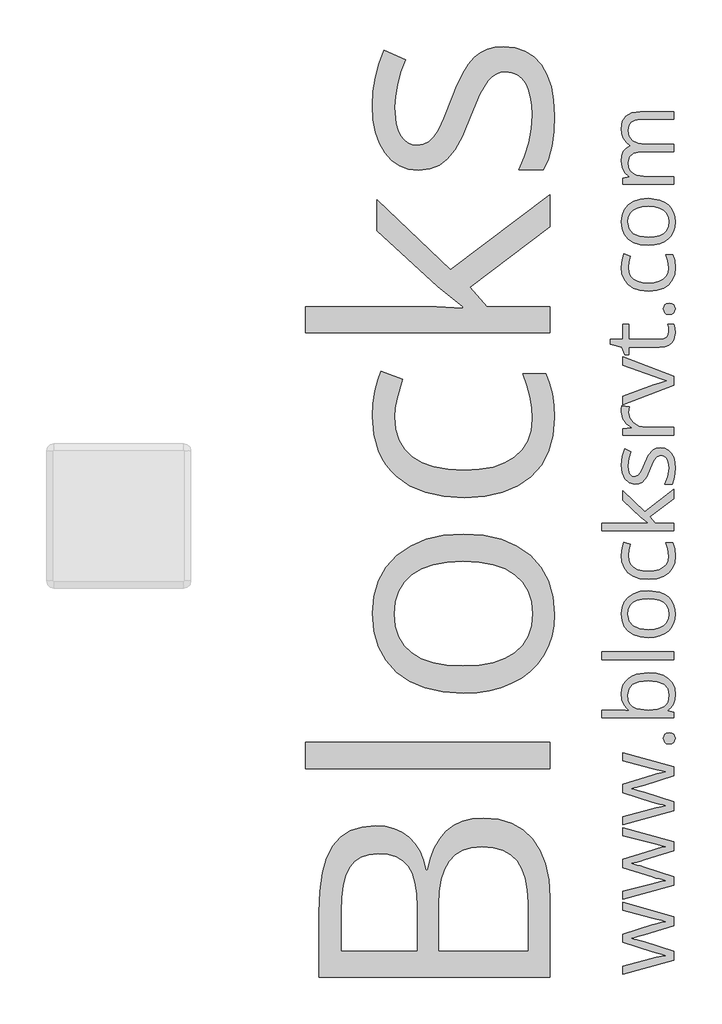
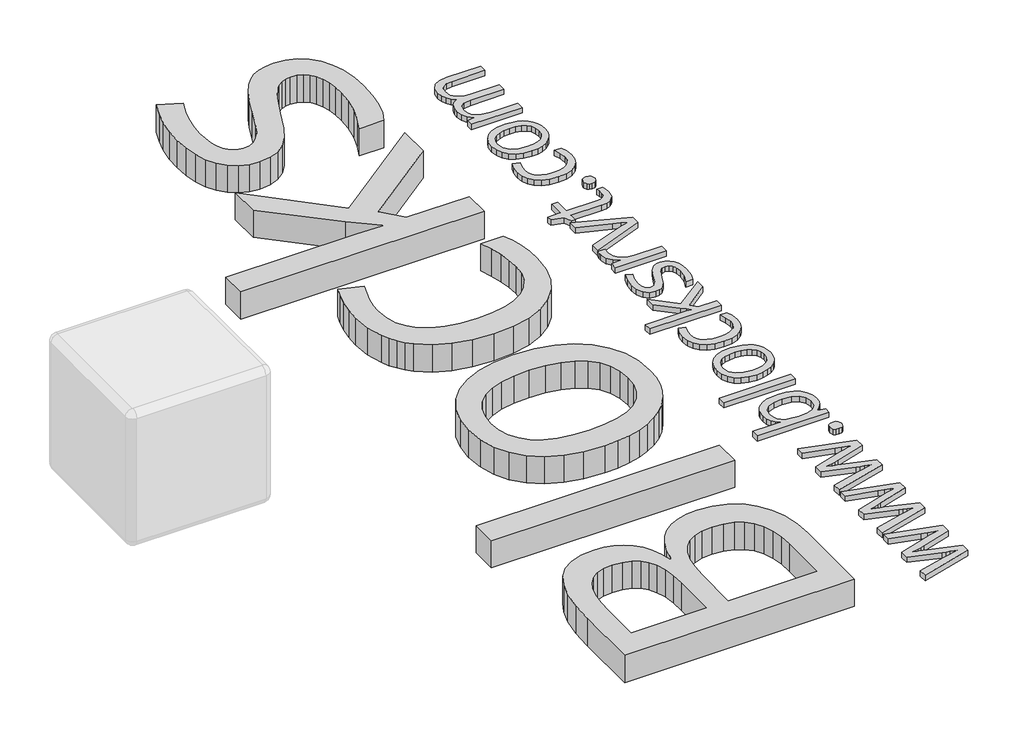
# One storey, part 6 of 6: 2 proxies.
"""IFC4 building model written with IfcOpenShell, lengths in millimetres."""

from ifc_helpers import new_model, si_unit, origin, origin_with_axes, place, context, project, spatial, polyline, outline, extrude, element, save

model = new_model("IFC4")

# Units and contexts
model_context = context("Model", 3, world=origin())
ifc_project = project(units=[si_unit("LENGTHUNIT", "METRE", prefix="MILLI")], contexts=[model_context])

# Site, building, storey
site = spatial("IfcSite", under=ifc_project)
building = spatial("IfcBuilding", under=site)
storey = spatial("IfcBuildingStorey", under=building, Name="PORTOBELLO - SHOWROOM", Elevation=0.0)

# Proxies
placement = place(None, origin())
element("IfcBuildingElementProxy", 1, Name="25mm OpenSans", ObjectType="25mm OpenSans", at=placement, inside=storey, context=model_context, shape_type="SweptSolid", body=[
    extrude(outline(polyline([(-15400.2390756, 12153.4657869), (-15503.5294814, 12121.9089939), (-15516.6094348, 12117.9737643), (-15528.9023423, 12114.6007105), (-15539.8835066, 12111.8273106), (-15548.7284035, 12109.8409566), (-15539.8835066, 12106.9176433), (-15528.7899072, 12104.2566785), (-15516.234651, 12100.921103), (-15503.0797409, 12096.8734383), (-15400.2390756, 12063.892467), (-15400.2390756, 12033.6848954), (-15577.736667, 11984.8880492), (-15577.736667, 12012.6970046), (-15479.7681906, 12038.1823006), (-15460.5792618, 12043.1294463), (-15442.777033, 12047.177111), (-15428.2729012, 12049.6506839), (-15437.9798008, 12053.1736513), (-15450.047838, 12055.9095727), (-15462.8654428, 12059.2076699), (-15474.8960017, 12062.7681157), (-15577.736667, 12095.44926), (-15577.736667, 12124.3825667), (-15475.0459152, 12155.864403), (-15458.8552565, 12160.6241569), (-15442.5896411, 12164.9341702), (-15428.5727282, 12167.6326133), (-15442.1773789, 12171.3804509), (-15460.0170862, 12175.5030724), (-15479.7681906, 12180.4502181), (-15577.736667, 12206.3102979), (-15577.736667, 12233.594556), (-15400.2390756, 12184.6477963), (-15400.2390756, 12153.4657869)])), origin_with_axes(), (0.0, 0.0, 1.0), 20.0),
    extrude(outline(polyline([(-15400.2390756, 12412.5163258), (-15503.5294814, 12380.9595327), (-15516.6094348, 12377.0243032), (-15528.9023423, 12373.6512493), (-15539.8835066, 12370.8778494), (-15548.7284035, 12368.8914954), (-15539.8835066, 12365.9681821), (-15528.7899072, 12363.3072173), (-15516.234651, 12359.9716418), (-15503.0797409, 12355.9239772), (-15400.2390756, 12322.9430058), (-15400.2390756, 12292.7354343), (-15577.736667, 12243.938588), (-15577.736667, 12271.7475434), (-15479.7681906, 12297.2328395), (-15460.5792618, 12302.1799852), (-15442.777033, 12306.2276498), (-15428.2729012, 12308.7012227), (-15437.9798008, 12312.2241901), (-15450.047838, 12314.9601116), (-15462.8654428, 12318.2582087), (-15474.8960017, 12321.8186545), (-15577.736667, 12354.4997988), (-15577.736667, 12383.4331056), (-15475.0459152, 12414.9149419), (-15458.8552565, 12419.6746957), (-15442.5896411, 12423.984709), (-15428.5727282, 12426.6831521), (-15442.1773789, 12430.4309898), (-15460.0170862, 12434.5536112), (-15479.7681906, 12439.5007569), (-15577.736667, 12465.3608367), (-15577.736667, 12492.6450949), (-15400.2390756, 12443.6983351), (-15400.2390756, 12412.5163258)])), origin_with_axes(), (0.0, 0.0, 1.0), 20.0),
    extrude(outline(polyline([(-15400.2390756, 12671.5668646), (-15503.5294814, 12640.0100715), (-15516.6094348, 12636.074842), (-15528.9023423, 12632.7017881), (-15539.8835066, 12629.9283882), (-15548.7284035, 12627.9420343), (-15539.8835066, 12625.0187209), (-15528.7899072, 12622.3577562), (-15516.234651, 12619.0221806), (-15503.0797409, 12614.974516), (-15400.2390756, 12581.9935446), (-15400.2390756, 12551.7859731), (-15577.736667, 12502.9891268), (-15577.736667, 12530.7980822), (-15479.7681906, 12556.2833783), (-15460.5792618, 12561.230524), (-15442.777033, 12565.2781887), (-15428.2729012, 12567.7517615), (-15437.9798008, 12571.2747289), (-15450.047838, 12574.0106504), (-15462.8654428, 12577.3087475), (-15474.8960017, 12580.8691933), (-15577.736667, 12613.5503377), (-15577.736667, 12642.4836444), (-15475.0459152, 12673.9654807), (-15458.8552565, 12678.7252345), (-15442.5896411, 12683.0352478), (-15428.5727282, 12685.7336909), (-15442.1773789, 12689.4815286), (-15460.0170862, 12693.60415), (-15479.7681906, 12698.5512957), (-15577.736667, 12724.4113755), (-15577.736667, 12751.6956337), (-15400.2390756, 12702.7488739), (-15400.2390756, 12671.5668646)])), origin_with_axes(), (0.0, 0.0, 1.0), 20.0),
    extrude(outline(polyline([(-15416.7295612, 12782.3529457), (-15426.408352, 12783.7302761), (-15432.8077848, 12787.8622671), (-15437.5675386, 12801.3170043), (-15432.8077848, 12815.221482), (-15426.408352, 12819.4659081), (-15416.7295612, 12820.8807168), (-15407.1350968, 12819.4659081), (-15400.5389026, 12815.221482), (-15395.4418434, 12801.3170043), (-15400.5389026, 12787.8622671), (-15407.1350968, 12783.7302761), (-15416.7295612, 12782.3529457)])), origin_with_axes(), (0.0, 0.0, 1.0), 20.0),
    extrude(outline(polyline([(-15649.69515, 12899.5853076), (-15589.4299205, 12899.5853076), (-15569.3040322, 12899.023132), (-15554.1252897, 12898.1611293), (-15565.1251933, 12908.4770525), (-15574.2886563, 12920.6106769), (-15580.4725885, 12936.2672687), (-15582.5338992, 12955.7279157), (-15581.0652153, 12971.5250514), (-15576.6591636, 12985.6356602), (-15569.3157442, 12998.059742), (-15559.0349571, 13008.7972969), (-15545.8589653, 13017.4548019), (-15529.8299321, 13023.638734), (-15489.2127415, 13028.5858798), (-15461.1039591, 13026.318438), (-15437.7924089, 13019.5161126), (-15419.4280044, 13008.6005355), (-15406.1606591, 12993.9933382), (-15398.1215473, 12976.0318262), (-15395.4418434, 12955.0533049), (-15397.4000885, 12935.9299633), (-15403.2748241, 12920.5357201), (-15411.979177, 12908.5707484), (-15422.4262745, 12899.7352211), (-15422.4262745, 12897.636432), (-15400.2390756, 12892.1645891), (-15400.2390756, 12872.75079), (-15649.69515, 12872.75079), (-15649.69515, 12899.5853076)]), holes=[polyline([(-15560.12183, 12951.3054673), (-15558.1916936, 12934.0841532), (-15552.4012844, 12920.7980688), (-15542.7318633, 12911.07243), (-15529.1646909, 12904.5324533), (-15489.8873523, 12899.5853076), (-15458.0963194, 12902.3774467), (-15435.8810117, 12910.7538638), (-15427.9285686, 12917.4765476), (-15422.2482522, 12926.4760428), (-15417.703999, 12951.3054673), (-15422.3513177, 12972.9492297), (-15436.2932738, 12988.4090601), (-15458.8739957, 12997.6849583), (-15489.4376118, 13000.7769243), (-15520.2448373, 12997.7318062), (-15542.3570795, 12988.596452), (-15555.6806424, 12973.1834696), (-15560.12183, 12951.3054673)])]), origin_with_axes(), (0.0, 0.0, 1.0), 20.0),
    extrude(outline(polyline([(-15400.2390756, 13101.2189735), (-15400.2390756, 13074.2345424), (-15649.69515, 13074.2345424), (-15649.69515, 13101.2189735), (-15400.2390756, 13101.2189735)])), origin_with_axes(), (0.0, 0.0, 1.0), 20.0),
    extrude(outline(polyline([(-15489.2876983, 13313.3465849), (-15449.6355759, 13307.68735), (-15433.5292435, 13300.7725896), (-15420.1400935, 13291.3467779), (-15409.5337129, 13279.5598284), (-15401.775689, 13265.5616548), (-15397.0253048, 13249.4740616), (-15395.4418434, 13231.4188537), (-15397.0253048, 13214.3943012), (-15401.775689, 13198.8501445), (-15409.5337129, 13185.0581019), (-15420.1400935, 13173.2898917), (-15433.5292435, 13163.7516448), (-15449.6355759, 13156.6494925), (-15468.2810682, 13152.2364136), (-15489.2876983, 13150.7653874), (-15516.7593483, 13153.2295906), (-15539.8085499, 13160.6222004), (-15558.1729544, 13172.5965417), (-15571.5902132, 13188.8059396), (-15579.7979777, 13208.903719), (-15582.5338992, 13232.543205), (-15579.7792385, 13255.2457316), (-15571.5152565, 13274.9312489), (-15558.0417801, 13291.0937988), (-15539.6586364, 13303.2274232), (-15516.6469132, 13310.8167945), (-15489.2876983, 13313.3465849)]), holes=[polyline([(-15489.362655, 13178.5743428), (-15468.9182006, 13179.9891515), (-15451.3595812, 13184.2335776), (-15437.0803197, 13191.4200563), (-15426.4739392, 13201.6610227), (-15419.8964841, 13215.1344991), (-15417.703999, 13232.0185078), (-15419.8964841, 13248.81819), (-15426.4739392, 13262.3385144), (-15437.0803197, 13272.6638071), (-15451.3595812, 13279.8783946), (-15468.9182006, 13284.1228208), (-15489.362655, 13285.5376295), (-15509.5728696, 13284.1228208), (-15526.87851, 13279.8783946), (-15540.9235316, 13272.6825463), (-15551.3518899, 13262.4134711), (-15557.8169098, 13248.8744076), (-15559.9719165, 13231.8685942), (-15555.2871194, 13207.9667596), (-15541.2327282, 13191.4294259), (-15518.8956158, 13181.7881136), (-15489.362655, 13178.5743428)])]), origin_with_axes(), (0.0, 0.0, 1.0), 20.0),
    extrude(outline(polyline([(-15395.4418434, 13433.0525197), (-15397.9528946, 13410.5561241), (-15405.4860483, 13390.889346), (-15418.1631091, 13374.6518394), (-15436.1058819, 13362.4432582), (-15459.3705842, 13354.7976694), (-15488.0134335, 13352.2491398), (-15517.7900037, 13354.9382133), (-15541.607512, 13363.0054339), (-15559.7470462, 13375.7949299), (-15572.4896943, 13392.6508297), (-15580.0228479, 13412.8329355), (-15582.5338992, 13435.6010493), (-15579.8729344, 13461.2362588), (-15573.164305, 13481.5495389), (-15550.7522358, 13473.4542096), (-15556.5613842, 13454.7899781), (-15559.1473922, 13435.0013952), (-15557.1141903, 13418.1173866), (-15551.0145845, 13404.3440832), (-15540.9797492, 13393.6721155), (-15527.1408586, 13386.0921138), (-15509.5635, 13381.5665998), (-15488.3132605, 13380.0580952), (-15467.8875453, 13381.5291215), (-15450.6849704, 13385.9422003), (-15436.9397758, 13393.2879621), (-15426.8862013, 13403.5570373), (-15420.7303779, 13416.7587954), (-15418.6784368, 13432.9026061), (-15421.676707, 13458.2379887), (-15428.7226417, 13478.7761391), (-15404.8114375, 13478.7761391), (-15397.8779378, 13458.9875562), (-15395.4418434, 13433.0525197)])), origin_with_axes(), (0.0, 0.0, 1.0), 20.0),
    extrude(outline(polyline([(-15649.69515, 13547.0617412), (-15520.8444913, 13547.0617412), (-15505.3284434, 13546.5745223), (-15489.1377848, 13545.7874764), (-15501.6180842, 13556.8435974), (-15514.9229078, 13567.8997185), (-15577.736667, 13626.7407697), (-15577.736667, 13658.2975628), (-15501.9553896, 13587.0136906), (-15400.2390756, 13663.4695788), (-15400.2390756, 13631.0882614), (-15484.2655958, 13568.5743293), (-15464.5519697, 13547.0617412), (-15400.2390756, 13547.0617412), (-15400.2390756, 13520.377137), (-15649.69515, 13520.377137), (-15649.69515, 13547.0617412)])), origin_with_axes(), (0.0, 0.0, 1.0), 20.0),
    extrude(outline(polyline([(-15448.1364408, 13807.6863718), (-15432.2081308, 13805.5688435), (-15419.0532206, 13799.2162587), (-15408.746667, 13788.9190747), (-15401.3634269, 13774.9677491), (-15396.9222392, 13757.6808479), (-15395.4418434, 13737.3769374), (-15398.3651567, 13705.2204903), (-15406.6103996, 13681.4591995), (-15431.3461281, 13681.4591995), (-15421.6017502, 13707.3567577), (-15417.2542585, 13738.0515481), (-15419.1750253, 13757.840131), (-15424.9373257, 13771.3323465), (-15433.9977232, 13779.0903705), (-15445.8127815, 13781.6763785), (-15458.8927349, 13777.553757), (-15469.9113776, 13763.7242361), (-15481.7170662, 13736.9271968), (-15494.834498, 13707.5441496), (-15510.7253297, 13688.4676559), (-15521.5003629, 13683.4361839), (-15535.0862744, 13681.7590265), (-15555.3527066, 13686.3126493), (-15570.27847, 13699.9735176), (-15579.4700419, 13721.017626), (-15582.5338992, 13747.7209693), (-15579.3857155, 13777.7411489), (-15570.9156024, 13803.7886206), (-15549.4030143, 13794.7938103), (-15557.3484301, 13771.3323465), (-15560.5715705, 13745.9220072), (-15558.9974787, 13729.4971087), (-15554.2752032, 13717.4009627), (-15546.8170063, 13709.9521353), (-15537.03515, 13707.4691929), (-15523.0931939, 13712.0790332), (-15512.7866404, 13726.8829919), (-15501.505649, 13753.7175095), (-15488.6130875, 13782.4634244), (-15472.4599072, 13801.1276559), (-15461.638026, 13806.0466928), (-15448.1364408, 13807.6863718)])), origin_with_axes(), (0.0, 0.0, 1.0), 20.0),
    extrude(outline(polyline([(-15582.5338992, 13931.8897117), (-15581.9717235, 13943.058268), (-15580.4351101, 13953.4022999), (-15555.549468, 13950.029246), (-15557.3484301, 13940.2848681), (-15558.0230409, 13930.3156199), (-15553.6755492, 13910.1522533), (-15541.2327282, 13893.5868109), (-15521.7814508, 13882.4182547), (-15496.4835466, 13878.37059), (-15400.2390756, 13878.37059), (-15400.2390756, 13851.3861589), (-15577.736667, 13851.3861589), (-15577.736667, 13873.7232713), (-15546.7045712, 13876.6465847), (-15564.6941919, 13891.0008029), (-15577.6991886, 13909.027902), (-15582.5338992, 13931.8897117)])), origin_with_axes(), (0.0, 0.0, 1.0), 20.0),
    extrude(outline(polyline([(-15400.2390756, 14024.6861721), (-15577.736667, 13957.4499646), (-15577.736667, 13986.2333578), (-15470.3236397, 14025.1359126), (-15446.0376517, 14033.4186339), (-15424.6749771, 14039.2277822), (-15446.1500868, 14046.8358927), (-15470.3236397, 14055.0436571), (-15577.736667, 14094.0211688), (-15577.736667, 14122.804562), (-15400.2390756, 14055.4184409), (-15400.2390756, 14024.6861721)])), origin_with_axes(), (0.0, 0.0, 1.0), 20.0),
    extrude(outline(polyline([(-15417.404172, 14210.8787469), (-15418.5285233, 14224.4459192), (-15421.3019232, 14235.7643889), (-15400.4639458, 14235.7643889), (-15396.9035, 14222.7219139), (-15395.4418434, 14206.4562985), (-15400.4264674, 14180.9710024), (-15407.153836, 14170.6457097), (-15417.3666936, 14162.6065979), (-15431.5991071, 14157.4345819), (-15450.3851434, 14155.7105766), (-15556.7487761, 14155.7105766), (-15556.7487761, 14130.5251075), (-15569.7912511, 14130.5251075), (-15580.3601533, 14155.9354468), (-15620.9117568, 14166.5793058), (-15620.9117568, 14182.6950077), (-15577.736667, 14182.6950077), (-15577.736667, 14234.6400376), (-15556.7487761, 14234.6400376), (-15556.7487761, 14182.6950077), (-15450.9847974, 14182.6950077), (-15436.2464258, 14184.6157745), (-15425.76185, 14190.3780749), (-15419.4935915, 14199.3447765), (-15417.404172, 14210.8787469)])), origin_with_axes(), (0.0, 0.0, 1.0), 20.0),
    extrude(outline(polyline([(-15416.7295612, 14269.4949278), (-15426.408352, 14270.8722582), (-15432.8077848, 14275.0042492), (-15437.5675386, 14288.4589864), (-15432.8077848, 14302.3634641), (-15426.408352, 14306.6078902), (-15416.7295612, 14308.022699), (-15407.1350968, 14306.6078902), (-15400.5389026, 14302.3634641), (-15395.4418434, 14288.4589864), (-15400.5389026, 14275.0042492), (-15407.1350968, 14270.8722582), (-15416.7295612, 14269.4949278)])), origin_with_axes(), (0.0, 0.0, 1.0), 20.0),
    extrude(outline(polyline([(-15395.4418434, 14430.8768173), (-15397.9528946, 14408.3804218), (-15405.4860483, 14388.7136437), (-15418.1631091, 14372.4761371), (-15436.1058819, 14360.2675559), (-15459.3705842, 14352.6219671), (-15488.0134335, 14350.0734375), (-15517.7900037, 14352.762511), (-15541.607512, 14360.8297315), (-15559.7470462, 14373.6192275), (-15572.4896943, 14390.4751274), (-15580.0228479, 14410.6572332), (-15582.5338992, 14433.4253469), (-15579.8729344, 14459.0605565), (-15573.164305, 14479.3738366), (-15550.7522358, 14471.2785073), (-15556.5613842, 14452.6142757), (-15559.1473922, 14432.8256929), (-15557.1141903, 14415.9416843), (-15551.0145845, 14402.1683809), (-15540.9797492, 14391.4964132), (-15527.1408586, 14383.9164115), (-15509.5635, 14379.3908975), (-15488.3132605, 14377.8823929), (-15467.8875453, 14379.3534192), (-15450.6849704, 14383.766498), (-15436.9397758, 14391.1122598), (-15426.8862013, 14401.381335), (-15420.7303779, 14414.5830931), (-15418.6784368, 14430.7269038), (-15421.676707, 14456.0622864), (-15428.7226417, 14476.6004367), (-15404.8114375, 14476.6004367), (-15397.8779378, 14456.8118539), (-15395.4418434, 14430.8768173)])), origin_with_axes(), (0.0, 0.0, 1.0), 20.0),
    extrude(outline(polyline([(-15489.2876983, 14670.9632976), (-15449.6355759, 14665.3040628), (-15433.5292435, 14658.3893023), (-15420.1400935, 14648.9634906), (-15409.5337129, 14637.1765411), (-15401.775689, 14623.1783675), (-15397.0253048, 14607.0907744), (-15395.4418434, 14589.0355664), (-15397.0253048, 14572.0110139), (-15401.775689, 14556.4668572), (-15409.5337129, 14542.6748146), (-15420.1400935, 14530.9066044), (-15433.5292435, 14521.3683576), (-15449.6355759, 14514.2662052), (-15468.2810682, 14509.8531264), (-15489.2876983, 14508.3821001), (-15516.7593483, 14510.8463033), (-15539.8085499, 14518.2389131), (-15558.1729544, 14530.2132544), (-15571.5902132, 14546.4226523), (-15579.7979777, 14566.5204317), (-15582.5338992, 14590.1599177), (-15579.7792385, 14612.8624443), (-15571.5152565, 14632.5479616), (-15558.0417801, 14648.7105115), (-15539.6586364, 14660.8441359), (-15516.6469132, 14668.4335072), (-15489.2876983, 14670.9632976)]), holes=[polyline([(-15489.362655, 14536.1910555), (-15468.9182006, 14537.6058642), (-15451.3595812, 14541.8502903), (-15437.0803197, 14549.0367691), (-15426.4739392, 14559.2777354), (-15419.8964841, 14572.7512118), (-15417.703999, 14589.6352205), (-15419.8964841, 14606.4349028), (-15426.4739392, 14619.9552271), (-15437.0803197, 14630.2805199), (-15451.3595812, 14637.4951073), (-15468.9182006, 14641.7395335), (-15489.362655, 14643.1543422), (-15509.5728696, 14641.7395335), (-15526.87851, 14637.4951073), (-15540.9235316, 14630.299259), (-15551.3518899, 14620.0301839), (-15557.8169098, 14606.4911203), (-15559.9719165, 14589.485307), (-15555.2871194, 14565.5834723), (-15541.2327282, 14549.0461386), (-15518.8956158, 14539.4048263), (-15489.362655, 14536.1910555)])]), origin_with_axes(), (0.0, 0.0, 1.0), 20.0),
    extrude(outline(polyline([(-15582.5338992, 14912.0242157), (-15578.6736264, 14937.7156428), (-15567.092808, 14956.1737433), (-15546.985659, 14967.3048211), (-15517.5463942, 14971.0151804), (-15400.2390756, 14971.0151804), (-15400.2390756, 14944.5554465), (-15516.4220429, 14944.5554465), (-15535.4985366, 14942.2317872), (-15549.1031873, 14935.2608092), (-15557.2547342, 14923.7174692), (-15559.9719165, 14907.676724), (-15556.2053396, 14885.4895251), (-15544.9056091, 14870.3482609), (-15526.2788559, 14861.6345384), (-15500.5312112, 14858.7299642), (-15400.2390756, 14858.7299642), (-15400.2390756, 14832.0453601), (-15516.4220429, 14832.0453601), (-15540.6705525, 14827.9227387), (-15555.1372059, 14815.6298312), (-15559.9719165, 14795.016724), (-15558.1261064, 14779.1446316), (-15552.5886763, 14766.7580281), (-15543.4345828, 14757.5758259), (-15530.7387828, 14751.316937), (-15495.134325, 14746.5197048), (-15400.2390756, 14746.5197048), (-15400.2390756, 14719.6851871), (-15577.736667, 14719.6851871), (-15577.736667, 14741.3476888), (-15554.2752032, 14745.3953535), (-15569.7912511, 14760.274269), (-15579.3107588, 14778.3763248), (-15582.5338992, 14799.7389995), (-15580.6599803, 14818.2814263), (-15575.0382239, 14833.5819735), (-15565.5749338, 14845.3782926), (-15552.1764142, 14853.4080347), (-15565.5749338, 14865.1575058), (-15575.0382239, 14878.7434173), (-15580.6599803, 14894.6717273), (-15582.5338992, 14912.0242157)])), origin_with_axes(), (0.0, 0.0, 1.0), 20.0),
])
element("IfcBuildingElementProxy", 2, Name="80mm OpenSans", ObjectType="80mm OpenSans", at=placement, inside=storey, context=model_context, shape_type="SweptSolid", body=[
    extrude(outline(polyline([(-16629.6224826, 11974.0050593), (-16629.6224826, 12198.9881799), (-16626.6855034, 12272.8182778), (-16617.8745659, 12335.6666275), (-16603.18967, 12387.533229), (-16582.6308158, 12428.4180823), (-16555.732293, 12459.3878141), (-16522.0283914, 12481.509051), (-16481.5191109, 12494.7817932), (-16434.2044515, 12499.2060406), (-16400.5456186, 12496.7347717), (-16369.9965284, 12489.320965), (-16342.5571807, 12476.9646204), (-16318.2275758, 12459.6657379), (-16297.4433779, 12437.6346384), (-16280.6402516, 12411.0816426), (-16267.8181967, 12380.0067504), (-16258.9772134, 12344.4099619), (-16253.6891486, 12344.4099619), (-16243.7740271, 12386.9435797), (-16229.7726737, 12423.8060485), (-16211.6850884, 12454.9973682), (-16189.5112712, 12480.5175389), (-16163.2512222, 12500.3665605), (-16132.9049412, 12514.5444331), (-16098.4724284, 12523.0511567), (-16059.9536836, 12525.8867312), (-16008.7180444, 12521.3723464), (-15963.4164552, 12507.8291918), (-15924.048916, 12485.2572674), (-15890.6154267, 12453.6565734), (-15863.9572705, 12413.9585301), (-15844.9157303, 12367.0945581), (-15833.4908063, 12313.0646574), (-15829.6824982, 12251.8688279), (-15829.6824982, 11974.0050593), (-16629.6224826, 11974.0050593)]), holes=[polyline([(-16291.1863353, 12067.0269265), (-16291.1863353, 12218.9386062), (-16293.1167794, 12264.4204704), (-16298.9081118, 12303.036864), (-16308.5603323, 12334.7877872), (-16322.0734411, 12359.6732399), (-16340.1535149, 12378.4443676), (-16363.5066306, 12391.852316), (-16392.1327882, 12399.8970851), (-16426.0319877, 12402.5786747), (-16457.2345746, 12399.5891154), (-16483.780059, 12390.6204373), (-16505.6684409, 12375.6726405), (-16522.8997202, 12354.745725), (-16535.9396073, 12327.3138888), (-16545.2538123, 12292.8513301), (-16550.8423354, 12251.3580489), (-16552.7051764, 12202.8340452), (-16552.7051764, 12067.0269265), (-16291.1863353, 12067.0269265)]), polyline([(-16214.2690291, 12067.0269265), (-15906.5998044, 12067.0269265), (-15906.5998044, 12232.6395014), (-15909.0109817, 12277.7457928), (-15916.2445135, 12316.9180341), (-15928.3003999, 12350.1562255), (-15945.1786408, 12377.4603669), (-15967.1796945, 12398.7553438), (-15994.6040192, 12413.9660416), (-16027.4516149, 12423.0924602), (-16065.7224816, 12426.1345998), (-16101.416919, 12423.0248571), (-16132.0636582, 12413.6956291), (-16157.6626991, 12398.1469159), (-16178.2140419, 12376.3787173), (-16193.9880988, 12348.2708502), (-16205.2552823, 12313.7031311), (-16212.0155924, 12272.6755602), (-16214.2690291, 12225.1881373), (-16214.2690291, 12067.0269265)])]), origin_with_axes(), (0.0, 0.0, 1.0), 100.0),
    extrude(outline(polyline([(-15829.6824982, 12787.6459388), (-15829.6824982, 12696.7873709), (-16675.7728663, 12696.7873709), (-16675.7728663, 12787.6459388), (-15829.6824982, 12787.6459388)])), origin_with_axes(), (0.0, 0.0, 1.0), 100.0),
    extrude(outline(polyline([(-16130.1407255, 13508.9860509), (-16059.8259889, 13504.3665057), (-15997.6686931, 13490.5078699), (-15943.6688382, 13467.4101437), (-15897.8264242, 13435.073327), (-15861.2831923, 13394.6091152), (-15835.1808838, 13347.1292039), (-15819.5194987, 13292.6335929), (-15814.299037, 13231.1222823), (-15816.6951913, 13191.9951097), (-15823.8836544, 13155.1363966), (-15835.8644262, 13120.5461432), (-15852.6375068, 13088.2243494), (-15873.8874149, 13058.8170004), (-15899.2986695, 13032.9700814), (-15928.8712705, 13010.6835924), (-15962.605218, 12991.9575334), (-15999.9371527, 12977.1299199), (-16040.3037155, 12966.5387674), (-16083.7049065, 12960.1840759), (-16130.1407255, 12958.0658453), (-16200.4254163, 12962.6478333), (-16262.4925746, 12976.3937972), (-16316.3422004, 12999.303737), (-16361.9742937, 13031.3776528), (-16398.3072048, 13071.5939865), (-16424.2592842, 13118.9311802), (-16439.8305318, 13173.3892339), (-16445.0209477, 13234.9681476), (-16439.7103485, 13294.6015943), (-16423.778551, 13347.790212), (-16397.2255552, 13394.5340007), (-16360.051361, 13434.8329604), (-16313.8183513, 13467.2749375), (-16260.0889088, 13490.4477783), (-16198.8630335, 13504.3514827), (-16130.1407255, 13508.9860509)]), holes=[polyline([(-16130.8618253, 13052.529912), (-16075.817878, 13055.3992881), (-16027.7445616, 13064.0074163), (-15986.6418762, 13078.3542966), (-15952.5098215, 13098.4399291), (-15925.6939247, 13124.0840388), (-15906.5397128, 13155.1063508), (-15895.0471856, 13191.506865), (-15891.2163432, 13233.2855815), (-15895.0321627, 13275.079321), (-15906.4796211, 13311.5249039), (-15925.5587185, 13342.6223305), (-15952.269455, 13368.3716005), (-15986.326395, 13388.5623934), (-16027.4441034, 13402.9843883), (-16075.6225802, 13411.6375853), (-16130.8618253, 13414.5219842), (-16185.5377112, 13411.6375853), (-16233.2279433, 13402.9843883), (-16273.9325216, 13388.5623934), (-16307.6514462, 13368.3716005), (-16334.0992816, 13342.5472159), (-16352.9905927, 13311.2244457), (-16364.3253793, 13274.4032899), (-16368.1036415, 13232.0837486), (-16364.3779595, 13190.3425894), (-16353.2009134, 13154.054747), (-16334.5725034, 13123.2202214), (-16308.4927292, 13097.8390127), (-16275.0367056, 13078.0162811), (-16234.2795471, 13063.8571872), (-16186.2212536, 13055.3617308), (-16130.8618253, 13052.529912)])]), origin_with_axes(), (0.0, 0.0, 1.0), 100.0),
    extrude(outline(polyline([(-15814.299037, 13911.1193423), (-15819.3842925, 13849.0897413), (-15834.640059, 13794.4814585), (-15860.0663365, 13747.2944939), (-15895.6631249, 13707.5288475), (-15940.5590955, 13675.9807336), (-15993.8829194, 13653.4463666), (-16055.6345966, 13639.9257464), (-16125.814127, 13635.4188729), (-16197.7964068, 13639.9933495), (-16261.1104668, 13653.716779), (-16315.7563069, 13676.5891615), (-16361.7339271, 13708.6104971), (-16381.2543226, 13727.8792588), (-16398.1719986, 13749.0897318), (-16412.4869553, 13772.2419161), (-16424.1991926, 13797.3358116), (-16439.8155089, 13853.3487367), (-16445.0209477, 13917.1285069), (-16442.7975568, 13960.8451789), (-16436.1273842, 14004.5017593), (-16426.4526293, 14043.4110998), (-16415.2154916, 14072.8860519), (-16339.9807514, 14044.7631618), (-16360.051361, 13978.3018019), (-16366.0905714, 13944.4401597), (-16368.1036415, 13914.724841), (-16364.344158, 13871.4025204), (-16353.0657072, 13833.8565092), (-16334.2682894, 13802.0868073), (-16307.9519044, 13776.093415), (-16274.1165523, 13755.876332), (-16232.762233, 13741.4355584), (-16183.8889466, 13732.7710943), (-16127.4966931, 13729.8829396), (-16073.7296933, 13732.6997355), (-16026.6028204, 13741.1501231), (-15986.1160743, 13755.2341025), (-15952.269455, 13774.9516737), (-15925.5587185, 13800.1976762), (-15906.4796211, 13830.8669498), (-15895.0321627, 13866.9594943), (-15891.2163432, 13908.4753099), (-15893.2444362, 13946.6785735), (-15899.3287153, 13985.3325244), (-15909.4691805, 14024.4371627), (-15923.6658317, 14063.9924883), (-15844.5852263, 14063.9924883), (-15831.3350185, 14031.6331373), (-15821.8705843, 13995.3678292), (-15816.1919238, 13955.1965642), (-15814.299037, 13911.1193423)])), origin_with_axes(), (0.0, 0.0, 1.0), 100.0),
    extrude(outline(polyline([(-16130.6214587, 14295.7058732), (-16220.0378271, 14366.8543815), (-16429.6374865, 14559.1476469), (-16429.6374865, 14666.1107758), (-16173.8874434, 14424.7827277), (-15829.6824982, 14682.9364366), (-15829.6824982, 14573.5696418), (-16106.5848005, 14363.2488827), (-16048.8968208, 14295.9462398), (-15829.6824982, 14295.9462398), (-15829.6824982, 14206.0491382), (-16675.7728663, 14206.0491382), (-16675.7728663, 14295.9462398), (-16223.6433258, 14295.9462398), (-16130.6214587, 14291.3792748), (-16130.6214587, 14295.7058732)])), origin_with_axes(), (0.0, 0.0, 1.0), 100.0),
    extrude(outline(polyline([(-15991.4492078, 15196.8401885), (-15951.3455459, 15192.9116972), (-15916.1243302, 15181.1262232), (-15885.7855607, 15161.4837666), (-15860.3292374, 15133.9843274), (-15840.1910247, 15099.3940739), (-15825.8065871, 15058.4791748), (-15817.1759245, 15011.2396301), (-15814.299037, 14957.6754396), (-15816.672657, 14900.993995), (-15823.793517, 14850.8925856), (-15835.6616169, 14807.3712114), (-15852.2769569, 14770.4298723), (-15937.3667269, 14770.4298723), (-15918.2275378, 14815.5586981), (-15903.5952221, 14863.9324727), (-15894.3110629, 14912.9672554), (-15891.2163432, 14960.0791054), (-15892.6435197, 14993.9332362), (-15896.9250495, 15023.6260205), (-15904.0609324, 15049.1574583), (-15914.0511684, 15070.5275498), (-15926.9708722, 15087.4057907), (-15942.8951583, 15099.4616771), (-15961.8240266, 15106.6952089), (-15983.7574772, 15109.1063861), (-16000.898619, 15107.1909649), (-16016.7477905, 15101.4447014), (-16031.3049916, 15091.8675954), (-16044.5702224, 15078.459647), (-16072.092196, 15033.3007754), (-16104.1811347, 14959.1176391), (-16133.8664075, 14886.9475729), (-16159.4654485, 14839.1747148), (-16184.6138021, 14808.1373799), (-16212.9470129, 14786.1738835), (-16245.8471888, 14773.1039506), (-16284.6964376, 14768.7473063), (-16319.880096, 14772.5030341), (-16351.1577975, 14783.7702176), (-16378.529542, 14802.5488568), (-16401.9953296, 14828.8389517), (-16420.8190375, 14861.679036), (-16434.2645432, 14900.1076432), (-16442.3318466, 14944.1247735), (-16445.0209477, 14993.7304269), (-16442.5271444, 15042.1492702), (-16435.0457346, 15090.0573345), (-16422.5767181, 15137.4546199), (-16405.1200951, 15184.3411263), (-16330.8468213, 15151.6512711), (-16347.1466802, 15107.1834535), (-16358.7894365, 15064.8789351), (-16365.7750903, 15024.7377159), (-16368.1036415, 14986.759796), (-16362.9658058, 14929.6126412), (-16356.5435112, 14907.0332054), (-16347.5522988, 14888.449864), (-16336.2926267, 14873.9377316), (-16323.0649532, 14863.5719228), (-16307.8692784, 14857.3524375), (-16290.7056022, 14855.2792757), (-16268.021006, 14858.3739955), (-16249.0020002, 14867.6581547), (-16232.2364311, 14883.8528531), (-16216.3121451, 14907.6791906), (-16197.2931393, 14948.0006847), (-16171.243411, 15013.6808532), (-16151.5033055, 15063.0536514), (-16131.7031083, 15103.7281839), (-16111.8428195, 15135.7044507), (-16091.922439, 15158.9824519), (-16070.6800423, 15175.5452117), (-16046.8537049, 15187.3757544), (-16020.4434267, 15194.47408), (-15991.4492078, 15196.8401885)])), origin_with_axes(), (0.0, 0.0, 1.0), 100.0),
])

save(model, "model.ifc")
